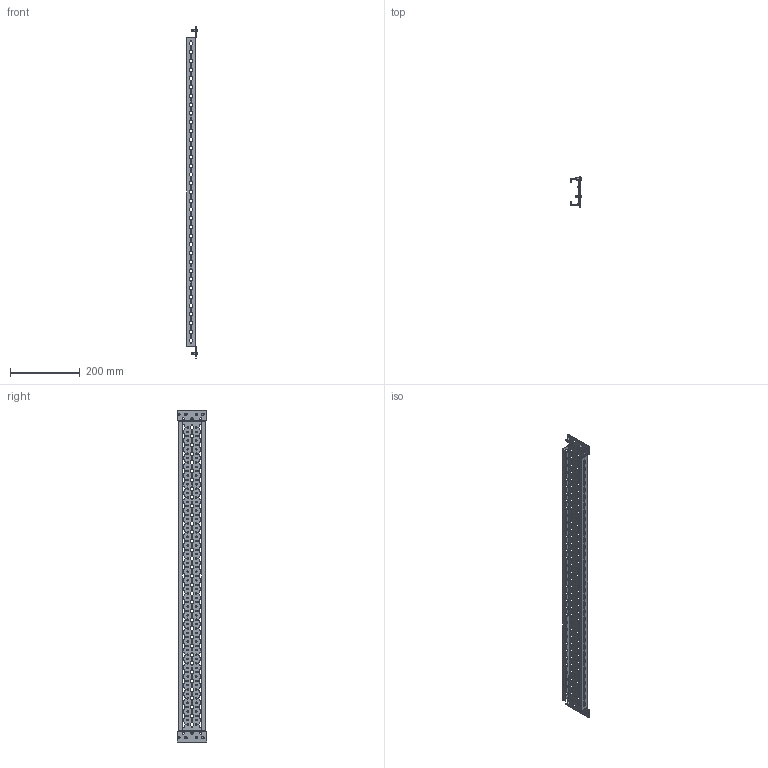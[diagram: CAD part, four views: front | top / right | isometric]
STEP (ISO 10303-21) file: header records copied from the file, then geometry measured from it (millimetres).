
FILE_DESCRIPTION(('Open CASCADE Model'),'2;1');
FILE_NAME('Open CASCADE Shape Model','2025-02-24T09:58:05',('Author'),( 'Open CASCADE'),'Open CASCADE STEP processor 7.8','Open CASCADE 7.8' ,'Unknown');
FILE_SCHEMA(('AUTOMOTIVE_DESIGN { 1 0 10303 214 1 1 1 1 }'));
Length unit declared in the file: millimetre
Products named in the file (3): Compound1; Solid1; Solid2
Assembly tree (5 placements, depth 2):
  Compound1
    Solid1
    Solid2  x4
Bounding box: 30.36 x 85 x 950.04 mm (x, y, z)
Volume: 156450.2 mm3; surface area: 229147.3 mm2
Topology: 5 solids, 5 shells, 3356 faces, 9967 edges, 6625 vertices
Faces by surface type: cylinder 2084, plane 1248, torus 8, cone 8, sphere 4, bspline 4
Full cylindrical faces by diameter (mm): 4.2 x308, 5 x4, 6.5 x10, 9.5 x4
Entity records: 115014 total; most frequent: CARTESIAN_POINT 20454, DIRECTION 20348, ORIENTED_EDGE 19752, EDGE_CURVE 9876, AXIS2_PLACEMENT_3D 7492, VERTEX_POINT 6574, LINE 5364, VECTOR 5364
